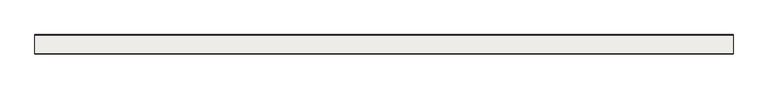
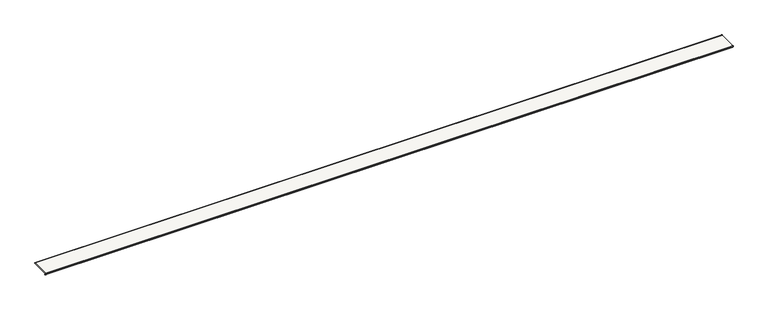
"""IFC4 building model written with IfcOpenShell, lengths in millimetres: slab geometry, ROSA GRES_J62 : Pieza J62_Tresor_Java_Anti-Slip."""

from ifc_helpers import new_model, si_unit, frame, origin, place, context, project, spatial, polyline, circle_curve, source, transform, mapped, element, save
from ifc_brep_helpers import plane_surface, cylinder_surface, revolved_surface, advanced_brep


def slab_8c8c27a8(model_context):
    return source(origin(), model_context, "Body", "AdvancedBrep", [
        advanced_brep(
        [(11420.0, 317.0, 2.5), (11420.0, 317.0, 10.0774941), (11420.0, 314.2818333, 12.7946269), (11420.0, 3.9876034, 12.7946269), (11420.0, 0.0, 8.2984975), (11420.0, 0.0, -0.2793766), (11420.0, 0.7963935, -2.84429), (11420.0, 14.760096, -23.1626329), (11420.0, 17.666394, -25.1262743), (11420.0, 18.5721049, -25.1262743), (11420.0, 19.473321, -26.1221068), (11420.0, 20.3835268, -27.1188383), (11420.0, 26.7240304, -27.1188383), (11420.0, 29.4411632, -24.4017055), (11420.0, 29.4411632, -18.2354274), (11420.0, 24.5931401, -10.7276172), (11420.0, 29.6363327, 0.0), (11420.0, 314.5, 0.0), (0.0, 317.0, 2.5), (0.0, 314.5, 0.0), (0.0, 29.6363327, 0.0), (0.0, 24.5931401, -10.7276172), (0.0, 29.4411632, -18.2354274), (0.0, 29.4411632, -24.4017055), (0.0, 26.7240304, -27.1188383), (0.0, 20.3835268, -27.1188383), (0.0, 19.4823107, -26.1230058), (0.0, 18.5721049, -25.1262743), (0.0, 17.666394, -25.1262743), (0.0, 14.760096, -23.1626329), (0.0, 0.7963935, -2.84429), (0.0, 0.0, -0.2793766), (0.0, 0.0, 8.2984975), (0.0, 3.9876034, 12.7946269), (0.0, 314.2818333, 12.7946269), (0.0, 316.9989661, 10.0774941)],
        [
            (0, 1),
            (1, 2, circle_curve(frame((11420.0, 314.2818333, 10.0774941), z_axis=(1.0, 0.0, 0.0), x_axis=(0.0, -1.0, 0.0)), 2.7171328)),
            (2, 3),
            (3, 4, circle_curve(frame((11420.0, 4.5285547, 8.2984975), z_axis=(1.0, 0.0, 0.0), x_axis=(0.0, -1.0, 0.0)), 4.5285547)),
            (4, 5),
            (5, 6, circle_curve(frame((11420.0, 4.5285547, -0.2793766), z_axis=(1.0, 0.0, 0.0), x_axis=(0.0, -1.0, 0.0)), 4.5285547)),
            (6, 7),
            (7, 8, circle_curve(frame((11420.0, 18.9818017, -20.0468365), z_axis=(1.0, 0.0, 0.0), x_axis=(0.0, -1.0, 0.0)), 5.2469978)),
            (8, 9),
            (9, 10, circle_curve(frame((11420.0, 18.5721049, -26.0319852), z_axis=(-1.0, 0.0, 0.0), x_axis=(0.0, -1.0, 0.0)), 0.9057109)),
            (10, 11, circle_curve(frame((11420.0, 20.3835268, -26.2131274), z_axis=(1.0, 0.0, 0.0), x_axis=(0.0, -1.0, 0.0)), 0.9057109)),
            (11, 12),
            (12, 13, circle_curve(frame((11420.0, 26.7240304, -24.4017055), z_axis=(1.0, 0.0, 0.0), x_axis=(0.0, -1.0, 0.0)), 2.7171328)),
            (13, 14),
            (14, 15),
            (15, 16, circle_curve(frame((11420.0, 30.1604402, -6.7956336), z_axis=(-1.0, 0.0, 0.0), x_axis=(0.0, -1.0, 0.0)), 6.8158144)),
            (16, 17),
            (17, 0, circle_curve(frame((11420.0, 314.5, 2.5), z_axis=(1.0, 0.0, 0.0), x_axis=(0.0, -1.0, 0.0)), 2.5)),
            (18, 19, circle_curve(frame((0.0, 314.5, 2.5), z_axis=(-1.0, 0.0, 0.0), x_axis=(0.0, -1.0, 0.0)), 2.5)),
            (19, 20),
            (20, 21, circle_curve(frame((0.0, 30.1604402, -6.7956336), z_axis=(1.0, 0.0, 0.0), x_axis=(0.0, -1.0, 0.0)), 6.8158144)),
            (21, 22),
            (22, 23),
            (23, 24, circle_curve(frame((0.0, 26.7240304, -24.4017055), z_axis=(-1.0, 0.0, 0.0), x_axis=(0.0, -1.0, 0.0)), 2.7171328)),
            (24, 25),
            (25, 26, circle_curve(frame((0.0, 20.3835268, -26.2131274), z_axis=(-1.0, 0.0, 0.0), x_axis=(0.0, -1.0, 0.0)), 0.9057109)),
            (26, 27, circle_curve(frame((0.0, 18.5721049, -26.0319852), z_axis=(1.0, 0.0, 0.0), x_axis=(0.0, -1.0, 0.0)), 0.9057109)),
            (27, 28),
            (28, 29, circle_curve(frame((0.0, 18.9818017, -20.0468365), z_axis=(-1.0, 0.0, 0.0), x_axis=(0.0, -1.0, 0.0)), 5.2469978)),
            (29, 30),
            (30, 31, circle_curve(frame((0.0, 4.5285547, -0.2793766), z_axis=(-1.0, 0.0, 0.0), x_axis=(0.0, -1.0, 0.0)), 4.5285547)),
            (31, 32),
            (32, 33, circle_curve(frame((0.0, 4.5285547, 8.2984975), z_axis=(-1.0, 0.0, 0.0), x_axis=(0.0, -1.0, 0.0)), 4.5285547)),
            (33, 34),
            (34, 35, circle_curve(frame((0.0, 314.2818333, 10.0774941), z_axis=(-1.0, 0.0, 0.0), x_axis=(0.0, -1.0, 0.0)), 2.7171328)),
            (35, 18),
            (16, 20),
            (19, 17),
            (18, 0),
            (35, 1),
            (34, 2),
            (33, 3),
            (32, 4),
            (31, 5),
            (30, 6),
            (29, 7),
            (28, 8),
            (27, 9),
            (26, 10),
            (25, 11),
            (24, 12),
            (23, 13),
            (22, 14),
            (21, 15),
        ],
        [
            plane_surface(frame((11420.0, 317.0, 10.0774941), z_axis=(1.0, 0.0, 0.0), x_axis=(0.0, 0.0, 1.0))),
            plane_surface(frame((0.0, 317.0, 10.0774941), z_axis=(-1.0, 0.0, 0.0), x_axis=(0.0, 0.0, -1.0))),
            plane_surface(frame((11420.0, 29.6363327, 0.0), z_axis=(0.0, 0.0, -1.0), x_axis=(-1.0, 0.0, 0.0))),
            cylinder_surface(frame((0.0, 314.5, 2.5), z_axis=(1.0, 0.0, 0.0), x_axis=(0.0, -1.0, 0.0)), 2.5),
            plane_surface(frame((11420.0, 317.0, 2.5), z_axis=(0.0, 1.0, 0.0), x_axis=(-1.0, 0.0, 0.0))),
            cylinder_surface(frame((0.0, 314.2818333, 10.0774941), z_axis=(1.0, 0.0, 0.0), x_axis=(0.0, -1.0, 0.0)), 2.7171328),
            plane_surface(frame((11420.0, 314.2818333, 12.7946269), z_axis=(0.0, 0.0, 1.0), x_axis=(-1.0, 0.0, 0.0))),
            cylinder_surface(frame((0.0, 4.5285547, 8.2984975), z_axis=(1.0, 0.0, 0.0), x_axis=(0.0, -1.0, 0.0)), 4.5285547),
            plane_surface(frame((11420.0, 0.0, 8.2984975), z_axis=(0.0, -1.0, 0.0), x_axis=(-1.0, 0.0, 0.0))),
            cylinder_surface(frame((0.0, 4.5285547, -0.2793766), z_axis=(1.0, 0.0, 0.0), x_axis=(0.0, -1.0, 0.0)), 4.5285547),
            plane_surface(frame((11420.0, 0.7963935, -2.84429), z_axis=(0.0, -0.8241395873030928, -0.5663867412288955), x_axis=(-1.0, 0.0, 0.0))),
            cylinder_surface(frame((0.0, 18.9818017, -20.0468365), z_axis=(1.0, 0.0, 0.0), x_axis=(0.0, -1.0, 0.0)), 5.2469978),
            plane_surface(frame((11420.0, 17.666394, -25.1262743), z_axis=(0.0, 0.0, -1.0), x_axis=(-1.0, 0.0, 0.0))),
            revolved_surface(polyline([(0.0, 17.666394, -26.0319852), (11420.0, 17.666394, -26.0319852)]), (0.0, 18.5721049, -26.0319852), (-1.0, 0.0, 0.0)),
            cylinder_surface(frame((0.0, 20.3835268, -26.2131274), z_axis=(1.0, 0.0, 0.0), x_axis=(0.0, -1.0, 0.0)), 0.9057109),
            plane_surface(frame((11420.0, 20.3835268, -27.1188383), z_axis=(0.0, 0.0, -1.0), x_axis=(-1.0, 0.0, 0.0))),
            cylinder_surface(frame((0.0, 26.7240304, -24.4017055), z_axis=(1.0, 0.0, 0.0), x_axis=(0.0, -1.0, 0.0)), 2.7171328),
            plane_surface(frame((11420.0, 29.4411632, -24.4017055), z_axis=(0.0, 1.0, 0.0), x_axis=(-1.0, 0.0, 0.0))),
            plane_surface(frame((11420.0, 29.4411632, -18.2354274), z_axis=(0.0, 0.8400786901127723, 0.5424645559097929), x_axis=(-1.0, 0.0, 0.0))),
            revolved_surface(polyline([(0.0, 23.3446258, -6.7956336), (11420.0, 23.3446258, -6.7956336)]), (0.0, 30.1604402, -6.7956336), (-1.0, 0.0, 0.0)),
        ],
        [
            (0, [[1, 2, 3, 4, 5, 6, 7, 8, 9, 10, 11, 12, 13, 14, 15, 16, 17, 18]]),
            (1, [[19, 20, 21, 22, 23, 24, 25, 26, 27, 28, 29, 30, 31, 32, 33, 34, 35, 36]]),
            (2, [[-17, 37, -20, 38]]),
            (3, [[-18, -38, -19, 39]]),
            (4, [[-1, -39, -36, 40]]),
            (5, [[-2, -40, -35, 41]]),
            (6, [[-3, -41, -34, 42]]),
            (7, [[-4, -42, -33, 43]]),
            (8, [[-5, -43, -32, 44]]),
            (9, [[-6, -44, -31, 45]]),
            (10, [[-7, -45, -30, 46]]),
            (11, [[-8, -46, -29, 47]]),
            (12, [[-9, -47, -28, 48]]),
            (13, [[-10, -48, -27, 49]]),
            (14, [[-11, -49, -26, 50]]),
            (15, [[-12, -50, -25, 51]]),
            (16, [[-13, -51, -24, 52]]),
            (17, [[-14, -52, -23, 53]]),
            (18, [[-15, -53, -22, 54]]),
            (19, [[-16, -54, -21, -37]]),
        ],
    ),
    ])


if __name__ == "__main__":
    model = new_model("IFC4")
    model_context = context("Model", 3, world=origin())
    ifc_project = project(units=[si_unit("LENGTHUNIT", "METRE", prefix="MILLI")], contexts=[model_context])
    site = spatial("IfcSite", under=ifc_project)
    building = spatial("IfcBuilding", under=site)
    placement = place(None, origin())
    slab_shape = slab_8c8c27a8(model_context)
    element("IfcSlab", 1, ObjectType="ROSA GRES_J62 : Pieza J62_Tresor_Java_Anti-Slip", at=placement, inside=building, context=model_context, shape_type="MappedRepresentation", body=[
        mapped(slab_shape, transform((0.0, 0.0, 0.0), x_axis=(1.0, 0.0, 0.0), y_axis=(0.0, 1.0, 0.0), z_axis=(0.0, 0.0, 1.0))),
    ])
    save(model, "model.ifc")
